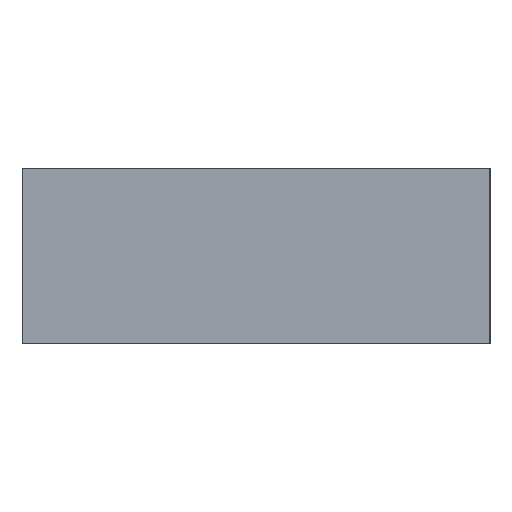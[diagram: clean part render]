
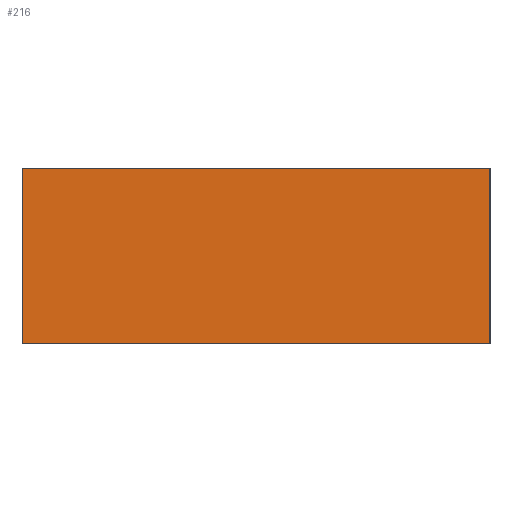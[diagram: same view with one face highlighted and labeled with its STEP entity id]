
A CAD part, left-side view. The second image highlights one B-rep face of the part: STEP entity #216.
In plain terms, the highlighted planar face has unit normal (-1, 0, 0).
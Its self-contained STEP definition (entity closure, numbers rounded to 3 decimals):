
#216=ADVANCED_FACE('',(#647),#649,.T.);
#647=FACE_BOUND('',#648,.T.);
#648=EDGE_LOOP('',(#974,#975,#976,#977));
#649=PLANE('',#650);
#650=AXIS2_PLACEMENT_3D('',#651,#652,#653);
#651=CARTESIAN_POINT('',(-1.6,-0.8,0.));
#652=DIRECTION('',(-1.,0.,0.));
#653=DIRECTION('',(0.,0.,1.));
#974=ORIENTED_EDGE('',*,*,#1181,.T.);
#975=ORIENTED_EDGE('',*,*,#1190,.T.);
#976=ORIENTED_EDGE('',*,*,#1184,.F.);
#977=ORIENTED_EDGE('',*,*,#1191,.F.);
#1181=EDGE_CURVE('',#1323,#1321,#1324,.T.);
#1184=EDGE_CURVE('',#1327,#1329,#1330,.T.);
#1190=EDGE_CURVE('',#1321,#1329,#1337,.T.);
#1191=EDGE_CURVE('',#1323,#1327,#1338,.T.);
#1321=VERTEX_POINT('',#1574);
#1323=VERTEX_POINT('',#1578);
#1324=LINE('',#1579,#1580);
#1327=VERTEX_POINT('',#1586);
#1329=VERTEX_POINT('',#1590);
#1330=LINE('',#1591,#1592);
#1337=LINE('',#1610,#1611);
#1338=LINE('',#1613,#1614);
#1574=CARTESIAN_POINT('',(-1.6,-0.8,0.6));
#1578=CARTESIAN_POINT('',(-1.6,-0.8,0.));
#1579=CARTESIAN_POINT('',(-1.6,-0.8,0.));
#1580=VECTOR('',#1581,1.);
#1581=DIRECTION('',(0.,0.,1.));
#1586=CARTESIAN_POINT('',(-1.6,0.8,0.));
#1590=CARTESIAN_POINT('',(-1.6,0.8,0.6));
#1591=CARTESIAN_POINT('',(-1.6,0.8,0.));
#1592=VECTOR('',#1593,1.);
#1593=DIRECTION('',(0.,0.,1.));
#1610=CARTESIAN_POINT('',(-1.6,-0.8,0.6));
#1611=VECTOR('',#1612,1.);
#1612=DIRECTION('',(0.,1.,0.));
#1613=CARTESIAN_POINT('',(-1.6,-0.8,0.));
#1614=VECTOR('',#1615,1.);
#1615=DIRECTION('',(0.,1.,0.));
